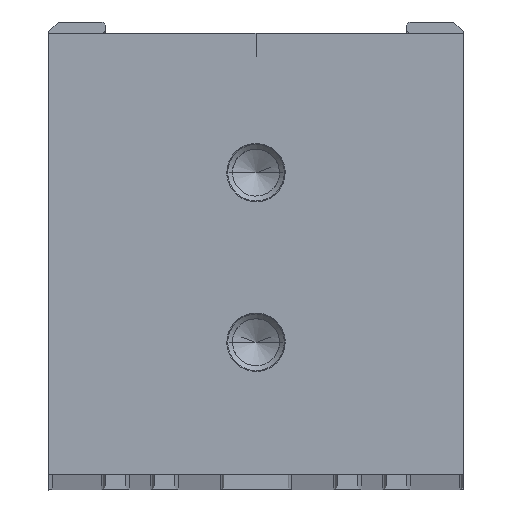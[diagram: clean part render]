
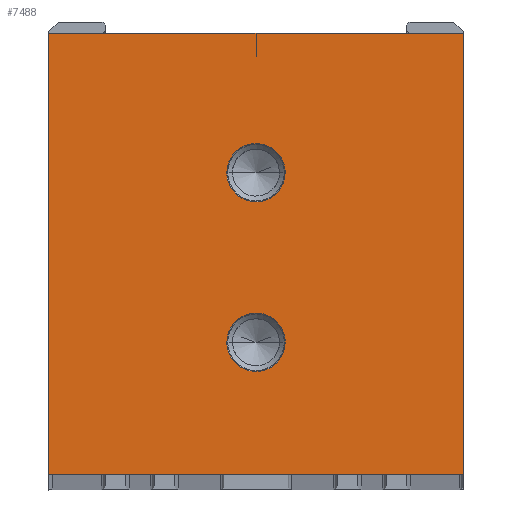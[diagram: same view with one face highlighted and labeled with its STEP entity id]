
A CAD part, top view. The second image highlights one B-rep face of the part: STEP entity #7488.
In plain terms, the highlighted planar face has unit normal (0, 0, 1).
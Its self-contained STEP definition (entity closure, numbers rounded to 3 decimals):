
#2570=DIRECTION('',(-1.,0.,0.));
#2571=VECTOR('',#2570,22.);
#2572=CARTESIAN_POINT('',(11.,11.402,236.));
#2573=LINE('',#2572,#2571);
#2574=DIRECTION('',(0.,1.,0.));
#2575=VECTOR('',#2574,23.402);
#2576=CARTESIAN_POINT('',(11.,-11.999,236.));
#2577=LINE('',#2576,#2575);
#2578=DIRECTION('',(1.,0.,0.));
#2579=VECTOR('',#2578,22.);
#2580=CARTESIAN_POINT('',(-11.,-12.007,236.));
#2581=LINE('',#2580,#2579);
#2582=DIRECTION('',(0.,-1.,0.));
#2583=VECTOR('',#2582,23.409);
#2584=CARTESIAN_POINT('',(-11.,11.402,236.));
#2585=LINE('',#2584,#2583);
#2586=CARTESIAN_POINT('',(-1.55,-4.996,
236.));
#2587=CARTESIAN_POINT('',(-1.55,-4.775,
236.));
#2588=CARTESIAN_POINT('',(-1.465,-4.373,
236.));
#2589=CARTESIAN_POINT('',(-1.095,-3.84,
236.));
#2590=CARTESIAN_POINT('',(-0.585,-3.521,
236.));
#2591=CARTESIAN_POINT('',(-0.008,-3.41,
236.));
#2592=CARTESIAN_POINT('',(0.578,-3.515,
236.));
#2593=CARTESIAN_POINT('',(1.11,-3.851,236.));
#2594=CARTESIAN_POINT('',(1.471,-4.394,236.));
#2595=CARTESIAN_POINT('',(1.55,-4.784,236.));
#2596=CARTESIAN_POINT('',(1.55,-4.996,236.));
#2598=CARTESIAN_POINT('',(1.55,-4.996,236.));
#2599=CARTESIAN_POINT('',(1.55,-5.216,236.));
#2600=CARTESIAN_POINT('',(1.465,-5.618,236.));
#2601=CARTESIAN_POINT('',(1.095,-6.151,236.));
#2602=CARTESIAN_POINT('',(0.585,-6.47,
236.));
#2603=CARTESIAN_POINT('',(0.008,-6.582,
236.));
#2604=CARTESIAN_POINT('',(-0.578,-6.476,
236.));
#2605=CARTESIAN_POINT('',(-1.11,-6.14,
236.));
#2606=CARTESIAN_POINT('',(-1.471,-5.598,
236.));
#2607=CARTESIAN_POINT('',(-1.55,-5.207,
236.));
#2608=CARTESIAN_POINT('',(-1.55,-4.996,
236.));
#2610=CARTESIAN_POINT('',(-1.55,4.004,236.));
#2611=CARTESIAN_POINT('',(-1.55,4.225,236.));
#2612=CARTESIAN_POINT('',(-1.465,4.627,236.));
#2613=CARTESIAN_POINT('',(-1.095,5.16,236.));
#2614=CARTESIAN_POINT('',(-0.585,5.479,
236.));
#2615=CARTESIAN_POINT('',(-0.008,5.59,
236.));
#2616=CARTESIAN_POINT('',(0.578,5.485,236.));
#2617=CARTESIAN_POINT('',(1.11,5.149,236.));
#2618=CARTESIAN_POINT('',(1.471,4.606,236.));
#2619=CARTESIAN_POINT('',(1.55,4.216,236.));
#2620=CARTESIAN_POINT('',(1.55,4.004,236.));
#2622=CARTESIAN_POINT('',(1.55,4.004,236.));
#2623=CARTESIAN_POINT('',(1.55,3.784,236.));
#2624=CARTESIAN_POINT('',(1.465,3.382,236.));
#2625=CARTESIAN_POINT('',(1.095,2.849,236.));
#2626=CARTESIAN_POINT('',(0.585,2.53,236.));
#2627=CARTESIAN_POINT('',(0.008,2.418,236.));
#2628=CARTESIAN_POINT('',(-0.578,2.524,
236.));
#2629=CARTESIAN_POINT('',(-1.11,2.86,236.));
#2630=CARTESIAN_POINT('',(-1.471,3.402,236.));
#2631=CARTESIAN_POINT('',(-1.55,3.793,236.));
#2632=CARTESIAN_POINT('',(-1.55,4.004,236.));
#3014=CARTESIAN_POINT('',(-11.,11.402,236.));
#3015=CARTESIAN_POINT('',(-11.,-12.007,236.));
#3016=VERTEX_POINT('',#3014);
#3017=VERTEX_POINT('',#3015);
#3018=CARTESIAN_POINT('',(11.,-11.999,236.));
#3019=VERTEX_POINT('',#3018);
#3020=CARTESIAN_POINT('',(11.,11.402,236.));
#3021=VERTEX_POINT('',#3020);
#3830=VERTEX_POINT('',#2586);
#3831=VERTEX_POINT('',#2596);
#3834=VERTEX_POINT('',#2610);
#3835=VERTEX_POINT('',#2620);
#7465=CARTESIAN_POINT('',(0.,0.,236.));
#7466=DIRECTION('',(0.,0.,1.));
#7467=DIRECTION('',(1.,0.,0.));
#7468=AXIS2_PLACEMENT_3D('',#7465,#7466,#7467);
#7469=PLANE('',#7468);
#7470=ORIENTED_EDGE('',*,*,#3903,.F.);
#7471=ORIENTED_EDGE('',*,*,#3998,.F.);
#7472=ORIENTED_EDGE('',*,*,#4895,.F.);
#7473=ORIENTED_EDGE('',*,*,#4151,.F.);
#7474=EDGE_LOOP('',(#7470,#7471,#7472,#7473));
#7475=FACE_OUTER_BOUND('',#7474,.F.);
#7477=ORIENTED_EDGE('',*,*,#7476,.F.);
#7479=ORIENTED_EDGE('',*,*,#7478,.F.);
#7480=EDGE_LOOP('',(#7477,#7479));
#7481=FACE_BOUND('',#7480,.F.);
#7483=ORIENTED_EDGE('',*,*,#7482,.F.);
#7485=ORIENTED_EDGE('',*,*,#7484,.F.);
#7486=EDGE_LOOP('',(#7483,#7485));
#7487=FACE_BOUND('',#7486,.F.);
#2597=B_SPLINE_CURVE_WITH_KNOTS('',3,(#2586,#2587,#2588,#2589,#2590,#2591,#2592,
#2593,#2594,#2595,#2596),.UNSPECIFIED.,.F.,.F.,(4,1,1,1,1,1,1,1,4),(0.,
0.125,0.25,0.375,0.5,0.625,0.75,0.875,1.),.UNSPECIFIED.);
#2609=B_SPLINE_CURVE_WITH_KNOTS('',3,(#2598,#2599,#2600,#2601,#2602,#2603,#2604,
#2605,#2606,#2607,#2608),.UNSPECIFIED.,.F.,.F.,(4,1,1,1,1,1,1,1,4),(0.,
0.125,0.25,0.375,0.5,0.625,0.75,0.875,1.),.UNSPECIFIED.);
#2621=B_SPLINE_CURVE_WITH_KNOTS('',3,(#2610,#2611,#2612,#2613,#2614,#2615,#2616,
#2617,#2618,#2619,#2620),.UNSPECIFIED.,.F.,.F.,(4,1,1,1,1,1,1,1,4),(0.,
0.125,0.25,0.375,0.5,0.625,0.75,0.875,1.),.UNSPECIFIED.);
#2633=B_SPLINE_CURVE_WITH_KNOTS('',3,(#2622,#2623,#2624,#2625,#2626,#2627,#2628,
#2629,#2630,#2631,#2632),.UNSPECIFIED.,.F.,.F.,(4,1,1,1,1,1,1,1,4),(0.,
0.125,0.25,0.375,0.5,0.625,0.75,0.875,1.),.UNSPECIFIED.);
#3903=EDGE_CURVE('',#3021,#3016,#2573,.T.);
#3998=EDGE_CURVE('',#3019,#3021,#2577,.T.);
#4151=EDGE_CURVE('',#3016,#3017,#2585,.T.);
#4895=EDGE_CURVE('',#3017,#3019,#2581,.T.);
#7476=EDGE_CURVE('',#3830,#3831,#2597,.T.);
#7478=EDGE_CURVE('',#3831,#3830,#2609,.T.);
#7482=EDGE_CURVE('',#3834,#3835,#2621,.T.);
#7484=EDGE_CURVE('',#3835,#3834,#2633,.T.);
#7488=ADVANCED_FACE('',(#7475,#7481,#7487),#7469,.T.);
